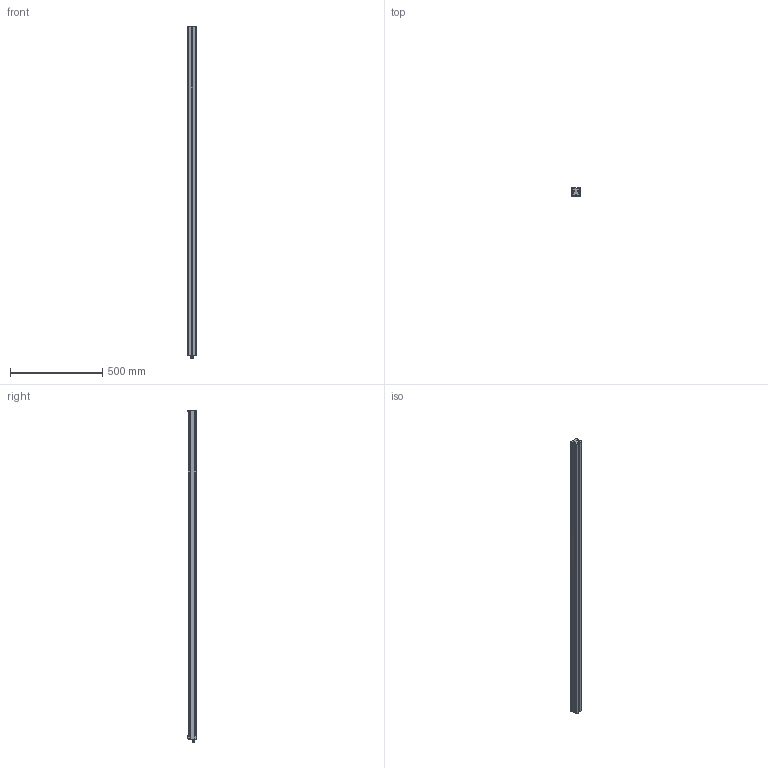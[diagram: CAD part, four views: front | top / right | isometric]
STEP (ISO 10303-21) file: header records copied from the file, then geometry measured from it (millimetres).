
FILE_DESCRIPTION (( 'STEP AP214' ), '1' );
FILE_NAME ('EBAR-HPS-1750-xxx-UN_CLIENT.STEP', '2025-11-18T13:05:22', ( '' ), ( '' ), 'SwSTEP 2.0', 'SolidWorks 2025', '' );
FILE_SCHEMA (( 'AUTOMOTIVE_DESIGN' ));
Length unit declared in the file: millimetre
Products named in the file (3): EBAR-HPS-xxx-xxx-xx_CLIENT - T-Power_1750; M4 T-Slot Nut; EBAR-HPS-1750-xxx-UN_CLIENT
Assembly tree (37 placements, depth 2):
  EBAR-HPS-1750-xxx-UN_CLIENT
    EBAR-HPS-xxx-xxx-xx_CLIENT - T-Power_1750
    M4 T-Slot Nut  x36
Bounding box: 47.63 x 45 x 1795.06 mm (x, y, z)
Volume: 3027217.9 mm3; surface area: 434830.7 mm2
Topology: 37 solids, 37 shells, 1424 faces, 3688 edges, 2428 vertices
Faces by surface type: plane 799, cylinder 371, bspline 140, torus 62, sphere 40, cone 12
Entity records: 29649 total; most frequent: CARTESIAN_POINT 10335, ORIENTED_EDGE 4138, DIRECTION 3640, EDGE_CURVE 2069, VERTEX_POINT 1343, AXIS2_PLACEMENT_3D 1252, LINE 1136, VECTOR 1136
